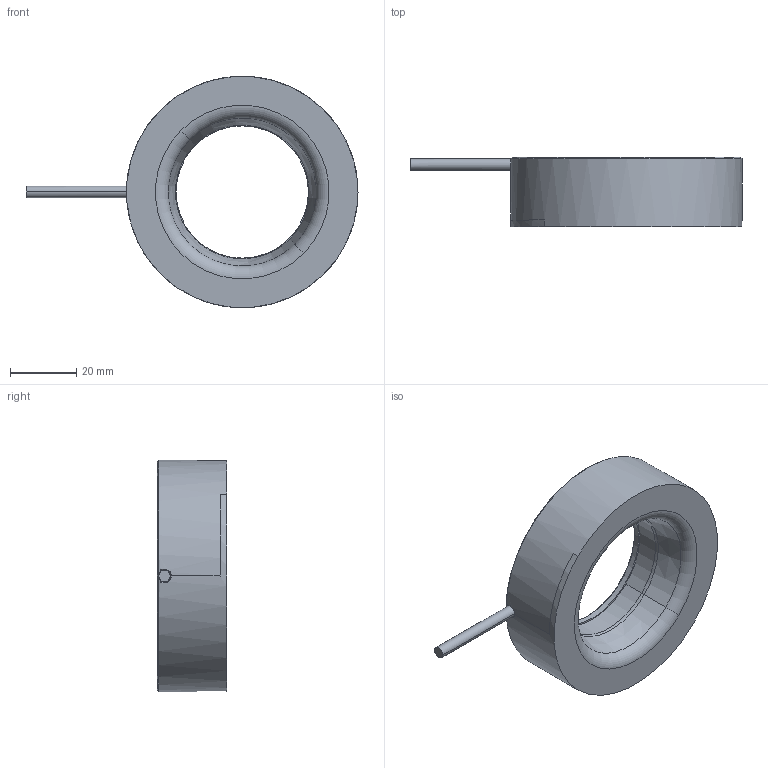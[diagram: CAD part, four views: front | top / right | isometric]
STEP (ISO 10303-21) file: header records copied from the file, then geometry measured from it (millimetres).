
FILE_DESCRIPTION((''),'2;1');
FILE_NAME('P-RL-70-15-SG','2021-07-28T',('Administrator'),(''),'PRO/ENGINEER BY PARAMETRIC TECHNOLOGY CORPORATION, 2010100','PRO/ENGINEER BY PARAMETRIC TECHNOLOGY CORPORATION, 2010100','');
FILE_SCHEMA(('CONFIG_CONTROL_DESIGN'));
Length unit declared in the file: millimetre
Products named in the file (1): P-RL-70-15-SG
Bounding box: 100.39 x 21 x 70 mm (x, y, z)
Volume: 38027.4 mm3; surface area: 23468.2 mm2
Topology: 1 solids, 5 shells, 98 faces, 245 edges, 149 vertices
Faces by surface type: cylinder 35, cone 29, plane 22, torus 8, bspline 4
Entity records: 3145 total; most frequent: CARTESIAN_POINT 727, DIRECTION 542, ORIENTED_EDGE 458, EDGE_CURVE 237, AXIS2_PLACEMENT_3D 226, VERTEX_POINT 149, CIRCLE 131, EDGE_LOOP 114
